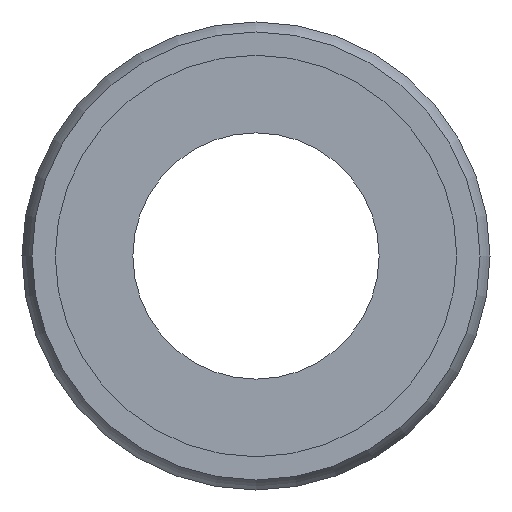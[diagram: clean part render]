
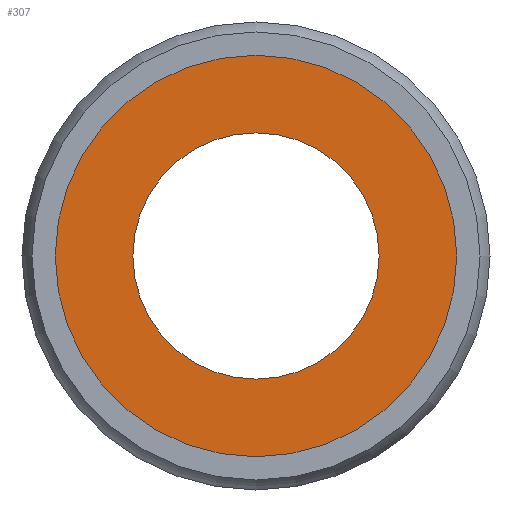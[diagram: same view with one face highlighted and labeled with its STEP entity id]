
A CAD part, left-side view. The second image highlights one B-rep face of the part: STEP entity #307.
In plain terms, the highlighted planar face has unit normal (-1, 0, 0).
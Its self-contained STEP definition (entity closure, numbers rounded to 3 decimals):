
#280=CARTESIAN_POINT('',(0.1,0.0,6.575));
#281=DIRECTION('',(-1.0,0.0,0.0));
#282=DIRECTION('',(0.0,0.0,1.0));
#283=AXIS2_PLACEMENT_3D('',#280,#281,#282);
#284=PLANE('',#283);
#285=CARTESIAN_POINT('',(0.1,0.0,8.15));
#286=VERTEX_POINT('',#285);
#287=CARTESIAN_POINT('',(0.1,0.0,0.));
#288=DIRECTION('',(1.0,0.0,0.0));
#289=DIRECTION('',(0.0,0.0,1.0));
#290=AXIS2_PLACEMENT_3D('',#287,#288,#289);
#291=CIRCLE('',#290,8.15);
#292=EDGE_CURVE('',#286,#286,#291,.T.);
#293=ORIENTED_EDGE('',*,*,#292,.F.);
#294=EDGE_LOOP('',(#293));
#295=FACE_OUTER_BOUND('',#294,.T.);
#296=CARTESIAN_POINT('',(0.1,0.0,5.));
#297=VERTEX_POINT('',#296);
#298=CARTESIAN_POINT('',(0.1,0.0,0.));
#299=DIRECTION('',(-1.0,0.0,0.0));
#300=DIRECTION('',(0.0,0.0,1.0));
#301=AXIS2_PLACEMENT_3D('',#298,#299,#300);
#302=CIRCLE('',#301,5.);
#303=EDGE_CURVE('',#297,#297,#302,.T.);
#304=ORIENTED_EDGE('',*,*,#303,.F.);
#305=EDGE_LOOP('',(#304));
#306=FACE_BOUND('',#305,.T.);
#307=ADVANCED_FACE('',(#295,#306),#284,.T.);
